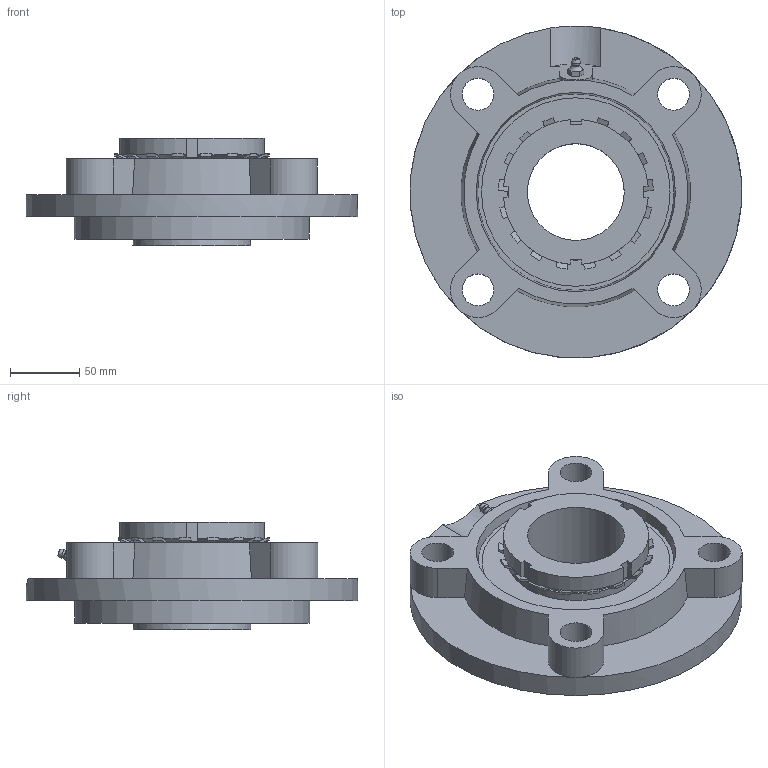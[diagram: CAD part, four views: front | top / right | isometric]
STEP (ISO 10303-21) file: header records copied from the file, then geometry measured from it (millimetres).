
FILE_DESCRIPTION((''),'2;1');
FILE_NAME('\\Ts-tgl068\j-cad-d-base\00.3DCADデータ作成フォルダ\02.フランジ形\UKFC200\UKFC216+H.stp','2014-11-20T16:43:16',('btec_1106_2'),(''),'Autodesk Inventor 2012','Autodesk Inventor 2012','');
FILE_SCHEMA(('AUTOMOTIVE_DESIGN { 1 0 10303 214 1 1 1 1 }'));
Length unit declared in the file: millimetre
Products named in the file (4): UKFC200+H; FC216; UK216; G1
Assembly tree (3 placements, depth 2):
  UKFC200+H
    FC216
    UK216
    G1
Bounding box: 239.72 x 239.81 x 78 mm (x, y, z)
Volume: 1281642.9 mm3; surface area: 212334.4 mm2
Topology: 3 solids, 3 shells, 208 faces, 530 edges, 337 vertices
Faces by surface type: plane 92, cylinder 54, cone 54, sphere 4, bspline 2, torus 2
Full cylindrical faces by diameter (mm): 8.566 x1, 9.728 x1, 23 x4, 70 x1, 80 x1, 98.5 x2, 170 x1, 240 x1
Entity records: 6228 total; most frequent: CARTESIAN_POINT 1381, ORIENTED_EDGE 998, DIRECTION 989, EDGE_CURVE 499, AXIS2_PLACEMENT_3D 399, VERTEX_POINT 325, EDGE_LOOP 254, FACE_OUTER_BOUND 208
